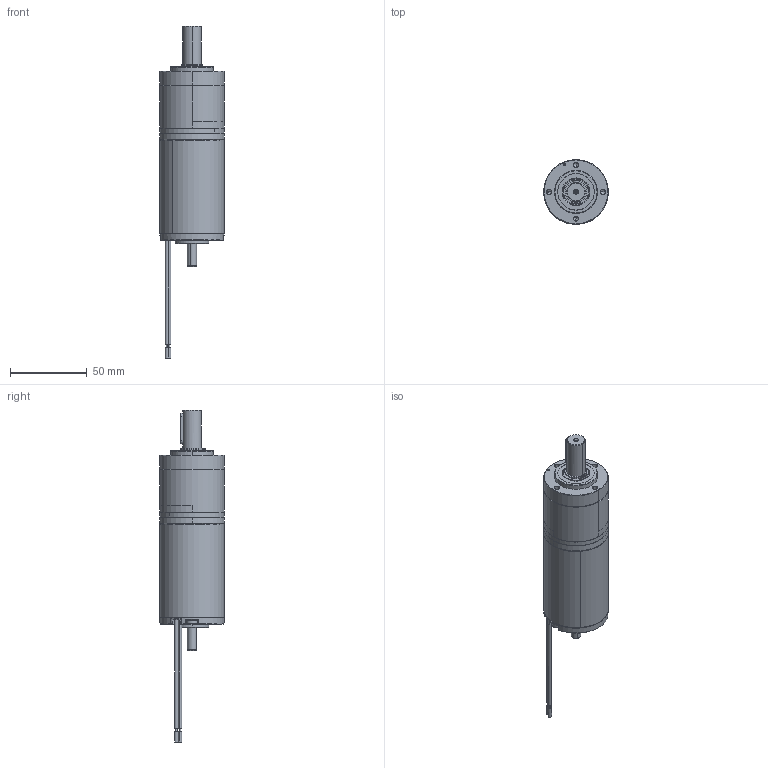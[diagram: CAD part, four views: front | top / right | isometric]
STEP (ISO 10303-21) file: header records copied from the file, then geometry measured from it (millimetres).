
FILE_DESCRIPTION (( 'STEP AP214' ), '1' );
FILE_NAME ('BRx42-25-PGx42 (1 Stage).STEP', '2025-05-12T11:11:06', ( '' ), ( '' ), 'SwSTEP 2.0', 'SolidWorks 2023', '' );
FILE_SCHEMA (( 'AUTOMOTIVE_DESIGN' ));
Length unit declared in the file: millimetre
Products named in the file (1): BRx42-25-PGx42 (1 Stage)
Bounding box: 42 x 42 x 216.35 mm (x, y, z)
Volume: 91067.9 mm3; surface area: 48608.3 mm2
Topology: 16 solids, 16 shells, 1557 faces, 3762 edges, 2354 vertices
Faces by surface type: plane 515, cylinder 316, cone 310, torus 214, bspline 186, sphere 16
Entity records: 72686 total; most frequent: CARTESIAN_POINT 19836, ORIENTED_EDGE 7500, DIRECTION 7292, EDGE_CURVE 3750, AXIS2_PLACEMENT_3D 2956, VERTEX_POINT 2354, EDGE_LOOP 1732, CIRCLE 1584
